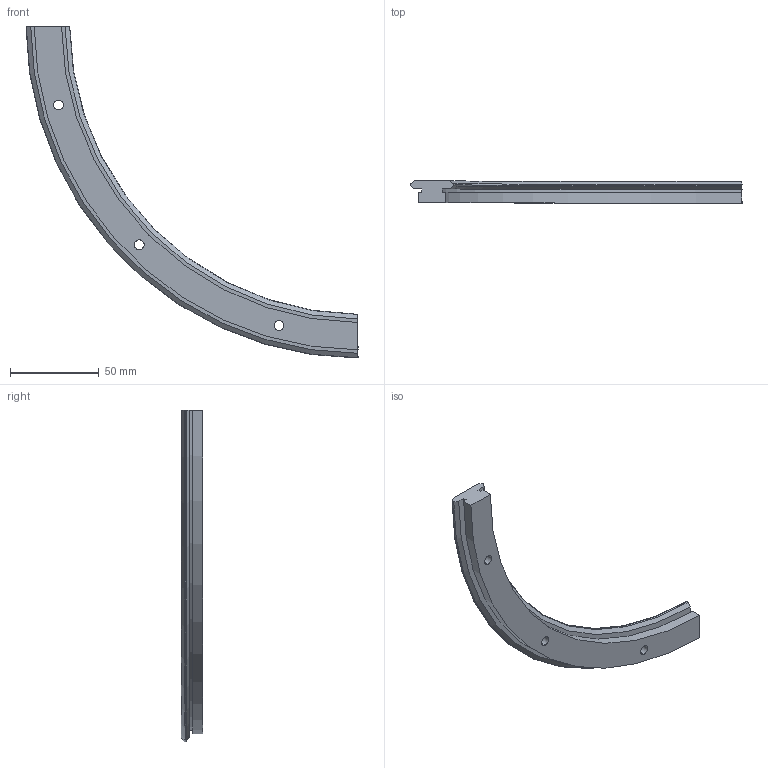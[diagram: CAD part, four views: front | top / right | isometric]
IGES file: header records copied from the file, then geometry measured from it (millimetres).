
Start section: 3D InterOp IGES (v. 2020 1.0.1), Spatial Corp. Copyright (c) 1999-2017.
Global section: file name: r25_351_r90.igs; native system: Spatial Corp.; preprocessor: 3D InterOp ACIS/IGES; author: TraceParts; organization: TraceParts S.A.; date: 20220624.070134; units: millimetre
Bounding box: 186.8 x 12.25 x 186.8 mm (x, y, z)
Surface area: 22021.9 mm2 (no closed solid volume)
Topology: 0 solids, 0 shells, 35 faces, 180 edges, 180 vertices
Faces by surface type: revolution 24, extrusion 11
